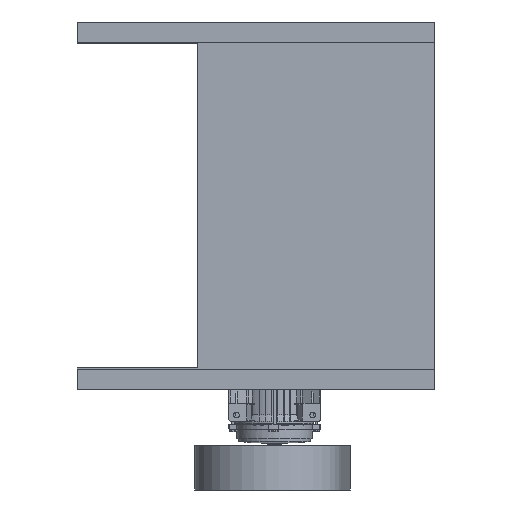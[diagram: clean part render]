
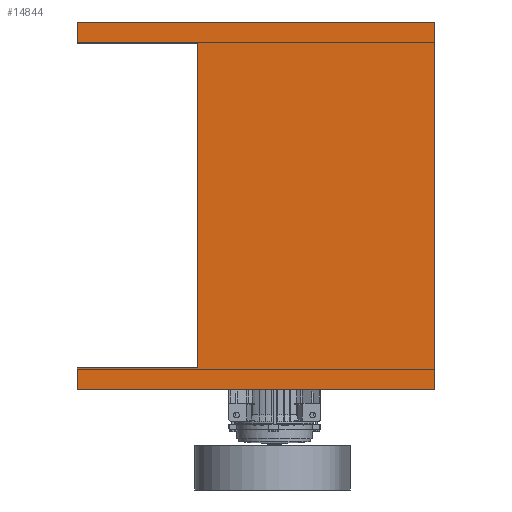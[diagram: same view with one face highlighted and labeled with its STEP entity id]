
A CAD part, front view. The second image highlights one B-rep face of the part: STEP entity #14844.
In plain terms, the highlighted planar face has unit normal (0, -1, 0).
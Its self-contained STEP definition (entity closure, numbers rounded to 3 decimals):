
#834 = CARTESIAN_POINT ( 'NONE',  ( -375.515, -176.895, -340. ) ) ;
#1746 = ORIENTED_EDGE ( 'NONE', *, *, #22848, .T. ) ;
#2200 = AXIS2_PLACEMENT_3D ( 'NONE', #14681, #36381, #17973 ) ;
#3821 = LINE ( 'NONE', #834, #28324 ) ;
#4077 = DIRECTION ( 'NONE',  ( 1., 0., 0. ) ) ;
#4532 = VERTEX_POINT ( 'NONE', #10592 ) ;
#4762 = VECTOR ( 'NONE', #29121, 1000. ) ;
#5716 = VERTEX_POINT ( 'NONE', #10831 ) ;
#7632 = EDGE_CURVE ( 'NONE', #13531, #34663, #3821, .T. ) ;
#7865 = CARTESIAN_POINT ( 'NONE',  ( -375.515, -176.895, 343. ) ) ;
#8112 = ORIENTED_EDGE ( 'NONE', *, *, #35736, .T. ) ;
#8116 = CARTESIAN_POINT ( 'NONE',  ( -122.515, -176.895, -340. ) ) ;
#8342 = VECTOR ( 'NONE', #17870, 1000. ) ;
#9742 = EDGE_CURVE ( 'NONE', #23249, #12519, #25390, .T. ) ;
#9822 = CARTESIAN_POINT ( 'NONE',  ( 374.485, -176.895, -386. ) ) ;
#10592 = CARTESIAN_POINT ( 'NONE',  ( -375.515, -176.895, -386. ) ) ;
#10831 = CARTESIAN_POINT ( 'NONE',  ( -375.515, -176.895, 386. ) ) ;
#10976 = CARTESIAN_POINT ( 'NONE',  ( -375.515, -176.895, 340. ) ) ;
#11040 = DIRECTION ( 'NONE',  ( 0., 0., -1. ) ) ;
#11881 = LINE ( 'NONE', #13995, #37694 ) ;
#11938 = VECTOR ( 'NONE', #40334, 1000. ) ;
#12292 = ORIENTED_EDGE ( 'NONE', *, *, #39659, .F. ) ;
#12386 = VECTOR ( 'NONE', #11040, 1000. ) ;
#12519 = VERTEX_POINT ( 'NONE', #37480 ) ;
#13531 = VERTEX_POINT ( 'NONE', #18960 ) ;
#13743 = CARTESIAN_POINT ( 'NONE',  ( 374.485, -176.895, 343. ) ) ;
#13995 = CARTESIAN_POINT ( 'NONE',  ( -375.515, -176.895, 343. ) ) ;
#14277 = DIRECTION ( 'NONE',  ( -1., 0., 0. ) ) ;
#14600 = CARTESIAN_POINT ( 'NONE',  ( -122.515, -176.895, 340. ) ) ;
#14681 = CARTESIAN_POINT ( 'NONE',  ( 0., -176.895, 343. ) ) ;
#14844 = ADVANCED_FACE ( 'NONE', ( #33996 ), #30380, .F. ) ;
#15453 = LINE ( 'NONE', #13743, #32078 ) ;
#16797 = VECTOR ( 'NONE', #14277, 1000. ) ;
#16969 = LINE ( 'NONE', #14600, #8342 ) ;
#17870 = DIRECTION ( 'NONE',  ( 0., 0., 1. ) ) ;
#17973 = DIRECTION ( 'NONE',  ( 0., 0., 1. ) ) ;
#18761 = ORIENTED_EDGE ( 'NONE', *, *, #37894, .F. ) ;
#18960 = CARTESIAN_POINT ( 'NONE',  ( -375.515, -176.895, -340. ) ) ;
#19626 = ORIENTED_EDGE ( 'NONE', *, *, #7632, .F. ) ;
#19906 = ORIENTED_EDGE ( 'NONE', *, *, #37712, .F. ) ;
#20194 = VERTEX_POINT ( 'NONE', #31099 ) ;
#21885 = EDGE_LOOP ( 'NONE', ( #40349, #31838, #18761, #19626, #1746, #12292, #19906, #8112 ) ) ;
#22848 = EDGE_CURVE ( 'NONE', #13531, #4532, #29305, .T. ) ;
#23249 = VERTEX_POINT ( 'NONE', #31600 ) ;
#25390 = LINE ( 'NONE', #10976, #16797 ) ;
#25592 = CARTESIAN_POINT ( 'NONE',  ( -375.515, -176.895, 386. ) ) ;
#27381 = VERTEX_POINT ( 'NONE', #9822 ) ;
#28106 = DIRECTION ( 'NONE',  ( 0., 0., -1. ) ) ;
#28324 = VECTOR ( 'NONE', #4077, 1000. ) ;
#29121 = DIRECTION ( 'NONE',  ( -1., 0., 0. ) ) ;
#29305 = LINE ( 'NONE', #7865, #12386 ) ;
#30380 = PLANE ( 'NONE',  #2200 ) ;
#31099 = CARTESIAN_POINT ( 'NONE',  ( 374.485, -176.895, 386. ) ) ;
#31600 = CARTESIAN_POINT ( 'NONE',  ( -122.515, -176.895, 340. ) ) ;
#31838 = ORIENTED_EDGE ( 'NONE', *, *, #9742, .F. ) ;
#32078 = VECTOR ( 'NONE', #28106, 1000. ) ;
#32759 = DIRECTION ( 'NONE',  ( 0., 0., -1. ) ) ;
#33996 = FACE_OUTER_BOUND ( 'NONE', #21885, .T. ) ;
#34663 = VERTEX_POINT ( 'NONE', #8116 ) ;
#35188 = EDGE_CURVE ( 'NONE', #5716, #12519, #11881, .T. ) ;
#35736 = EDGE_CURVE ( 'NONE', #20194, #5716, #35885, .T. ) ;
#35885 = LINE ( 'NONE', #25592, #11938 ) ;
#36381 = DIRECTION ( 'NONE',  ( 0., 1., 0. ) ) ;
#37480 = CARTESIAN_POINT ( 'NONE',  ( -375.515, -176.895, 340. ) ) ;
#37694 = VECTOR ( 'NONE', #32759, 1000. ) ;
#37712 = EDGE_CURVE ( 'NONE', #20194, #27381, #15453, .T. ) ;
#37894 = EDGE_CURVE ( 'NONE', #34663, #23249, #16969, .T. ) ;
#38033 = LINE ( 'NONE', #38091, #4762 ) ;
#38091 = CARTESIAN_POINT ( 'NONE',  ( -375.515, -176.895, -386. ) ) ;
#39659 = EDGE_CURVE ( 'NONE', #27381, #4532, #38033, .T. ) ;
#40334 = DIRECTION ( 'NONE',  ( -1., 0., 0. ) ) ;
#40349 = ORIENTED_EDGE ( 'NONE', *, *, #35188, .T. ) ;
